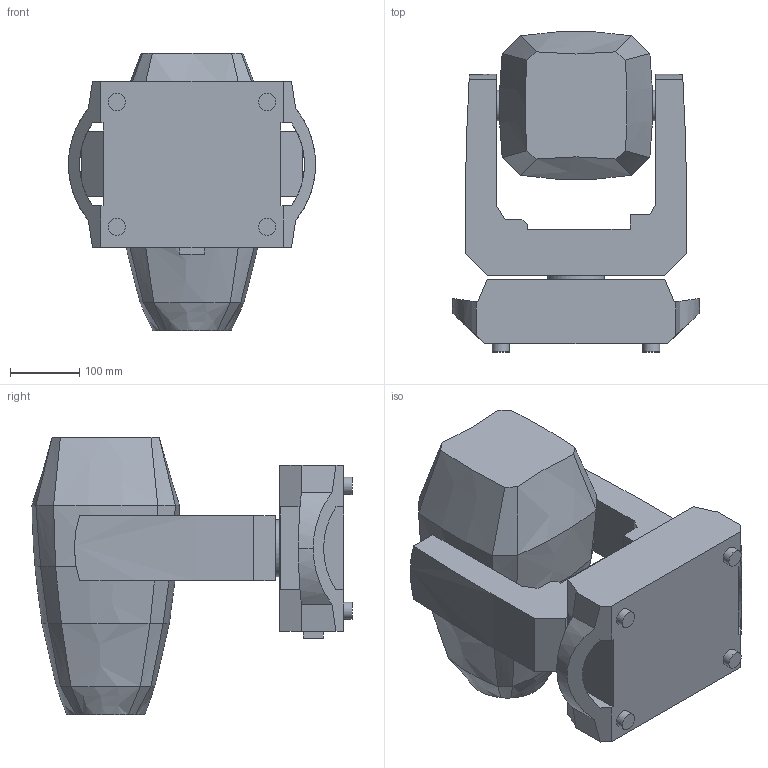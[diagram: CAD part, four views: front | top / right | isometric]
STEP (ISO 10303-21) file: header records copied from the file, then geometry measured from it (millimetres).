
FILE_DESCRIPTION(/* description */ (''),/* implementation_level */ '2;1');
FILE_NAME(/* name */ 'Rogue R3E Spot_90_3D.stp',/* time_stamp */ '2024-04-09T17:07:17-04:00',/* author */ ('dgooch'),/* organization */ (''),/* preprocessor_version */ 'ST-DEVELOPER v20',/* originating_system */ 'Autodesk Inventor 2024',/* authorisation */ '');
FILE_SCHEMA (('AUTOMOTIVE_DESIGN { 1 0 10303 214 3 1 1 }'));
Length unit declared in the file: millimetre
Products named in the file (4): Rogue R3E Spot_0; Base (1); Arm (1); Head (1)
Assembly tree (3 placements, depth 2):
  Rogue R3E Spot_0
    Base (1)
    Arm (1)
    Head (1)
Bounding box: 356 x 461.18 x 400.34 mm (x, y, z)
Volume: 22567442 mm3; surface area: 808481.1 mm2
Topology: 3 solids, 3 shells, 118 faces, 282 edges, 178 vertices
Faces by surface type: plane 55, bspline 40, cylinder 22, cone 1
Full cylindrical faces by diameter (mm): 25 x4, 44 x4, 82 x2
Entity records: 4274 total; most frequent: CARTESIAN_POINT 1468, ORIENTED_EDGE 564, DIRECTION 494, EDGE_CURVE 282, LINE 206, VECTOR 206, VERTEX_POINT 178, AXIS2_PLACEMENT_3D 144
